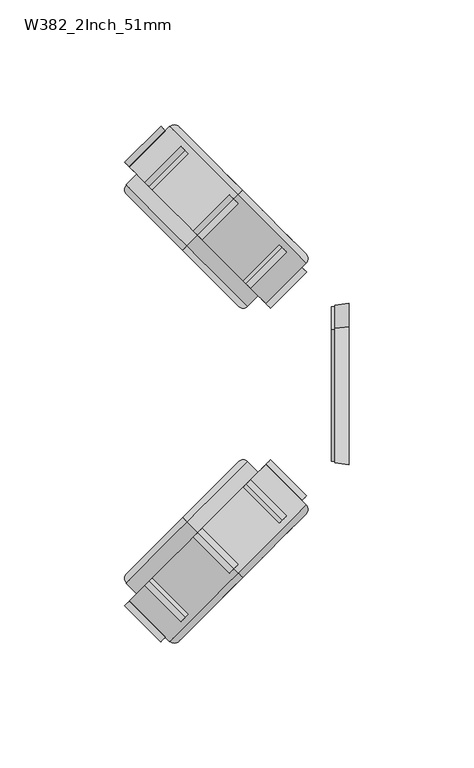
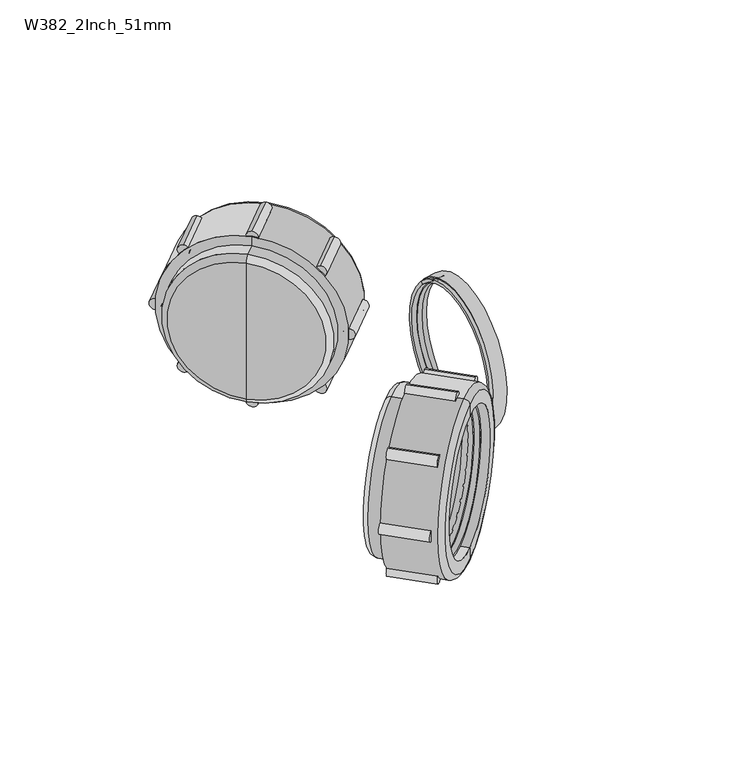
"""IFC4 building model written with IfcOpenShell, lengths in millimetres: pipe fitting geometry, Durapipe_PipeFitting_VulcatheneMechanical_DoubleWye_W38 : W382_2Inch_51mm."""

from ifc_helpers import new_model, si_unit, point, frame, frame_2d, origin, place, context, project, spatial, polyline, circle_curve, ellipse_curve, trimmed, segment, composite_curve, outline, extrude, source, transform, mapped, element, save
from ifc_brep_helpers import plane_surface, cylinder_surface, revolved_surface, advanced_brep


def w382_2inch_51mm_2cd0ae31(model_context):
    return source(origin(), model_context, "Body", "SolidModel", [
        advanced_brep(
        [(58.5911868, -90.8911868, -22.839549), (59.6911868, -89.7911868, -21.2839141), (89.7911868, -59.6911868, 21.2839141), (90.8911868, -58.5911868, 22.839549), (54.9813888, -86.5813888, -22.3445743), (86.5813888, -54.9813888, 22.3445743), (54.2914393, -85.2914393, -21.9203102), (55.2813888, -86.2813888, -21.9203102), (86.2813888, -55.2813888, 21.9203102), (85.2914393, -54.2914393, 21.9203102), (84.5914393, -54.9914393, 20.9303607), (54.9914393, -84.5914393, -20.9303607), (86.2177849, -56.6177849, 20.9303607), (56.6177849, -86.2177849, -20.9303607), (86.0177849, -56.8177849, 20.647518), (56.8177849, -86.0177849, -20.647518), (57.9234198, -88.0234198, -21.2839141), (58.3734198, -87.5734198, -20.647518), (87.5734198, -58.3734198, 20.647518), (88.0234198, -57.9234198, 21.2839141)],
        [
            (0, 1),
            (1, 2, circle_curve(frame((74.7411868, -74.7411868, 0.0), z_axis=(-0.7071067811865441, 0.7071067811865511, 0.0), x_axis=(0.5000000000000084, 0.49999999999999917, 0.7071067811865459)), 30.1)),
            (2, 3),
            (3, 0, circle_curve(frame((74.7411868, -74.7411868, 0.0), z_axis=(0.7071067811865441, -0.7071067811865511, 0.0), x_axis=(0.5000000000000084, 0.49999999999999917, 0.7071067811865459)), 32.3)),
            (2, 1, circle_curve(frame((74.7411868, -74.7411868, 0.0), z_axis=(-0.7071067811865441, 0.7071067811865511, 0.0), x_axis=(0.5000000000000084, 0.49999999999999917, 0.7071067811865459)), 30.1)),
            (0, 3, circle_curve(frame((74.7411868, -74.7411868, 0.0), z_axis=(0.7071067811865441, -0.7071067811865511, 0.0), x_axis=(0.5000000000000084, 0.49999999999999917, 0.7071067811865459)), 32.3)),
            (4, 0),
            (3, 5),
            (5, 4, circle_curve(frame((70.7813888, -70.7813888, 0.0), z_axis=(0.7071067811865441, -0.7071067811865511, 0.0), x_axis=(0.5000000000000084, 0.49999999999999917, 0.7071067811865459)), 31.6)),
            (4, 5, circle_curve(frame((70.7813888, -70.7813888, 0.0), z_axis=(0.7071067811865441, -0.7071067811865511, 0.0), x_axis=(0.5000000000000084, 0.49999999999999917, 0.7071067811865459)), 31.6)),
            (6, 7),
            (7, 8, circle_curve(frame((70.7813888, -70.7813888, 0.0), z_axis=(-0.7071067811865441, 0.7071067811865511, 0.0), x_axis=(0.5000000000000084, 0.49999999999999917, 0.7071067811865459)), 31.0)),
            (8, 9),
            (9, 6, circle_curve(frame((69.7914393, -69.7914393, 0.0), z_axis=(0.7071067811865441, -0.7071067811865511, 0.0), x_axis=(0.5000000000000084, 0.49999999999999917, 0.7071067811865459)), 31.0)),
            (8, 7, circle_curve(frame((70.7813888, -70.7813888, 0.0), z_axis=(-0.7071067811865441, 0.7071067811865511, 0.0), x_axis=(0.5000000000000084, 0.49999999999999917, 0.7071067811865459)), 31.0)),
            (6, 9, circle_curve(frame((69.7914393, -69.7914393, 0.0), z_axis=(0.7071067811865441, -0.7071067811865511, 0.0), x_axis=(0.5000000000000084, 0.49999999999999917, 0.7071067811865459)), 31.0)),
            (9, 10),
            (10, 11, circle_curve(frame((69.7914393, -69.7914393, 0.0), z_axis=(0.7071067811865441, -0.7071067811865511, 0.0), x_axis=(0.5000000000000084, 0.49999999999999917, 0.7071067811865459)), 29.6)),
            (11, 6),
            (11, 10, circle_curve(frame((69.7914393, -69.7914393, 0.0), z_axis=(0.7071067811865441, -0.7071067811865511, 0.0), x_axis=(0.5000000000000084, 0.49999999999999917, 0.7071067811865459)), 29.6)),
            (10, 12),
            (12, 13, circle_curve(frame((71.4177849, -71.4177849, 0.0), z_axis=(0.7071067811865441, -0.7071067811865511, 0.0), x_axis=(0.5000000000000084, 0.49999999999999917, 0.7071067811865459)), 29.6)),
            (13, 11),
            (13, 12, circle_curve(frame((71.4177849, -71.4177849, 0.0), z_axis=(0.7071067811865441, -0.7071067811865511, 0.0), x_axis=(0.5000000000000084, 0.49999999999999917, 0.7071067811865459)), 29.6)),
            (12, 14),
            (14, 15, circle_curve(frame((71.4177849, -71.4177849, 0.0), z_axis=(0.7071067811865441, -0.7071067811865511, 0.0), x_axis=(0.5000000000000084, 0.49999999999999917, 0.7071067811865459)), 29.2)),
            (15, 13),
            (15, 14, circle_curve(frame((71.4177849, -71.4177849, 0.0), z_axis=(0.7071067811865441, -0.7071067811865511, 0.0), x_axis=(0.5000000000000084, 0.49999999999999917, 0.7071067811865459)), 29.2)),
            (16, 17),
            (17, 18, circle_curve(frame((72.9734198, -72.9734198, 0.0), z_axis=(-0.7071067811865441, 0.7071067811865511, 0.0), x_axis=(0.5000000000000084, 0.49999999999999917, 0.7071067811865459)), 29.2)),
            (18, 19),
            (19, 16, circle_curve(frame((72.9734198, -72.9734198, 0.0), z_axis=(0.7071067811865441, -0.7071067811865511, 0.0), x_axis=(0.5000000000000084, 0.49999999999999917, 0.7071067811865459)), 30.1)),
            (18, 17, circle_curve(frame((72.9734198, -72.9734198, 0.0), z_axis=(-0.7071067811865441, 0.7071067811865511, 0.0), x_axis=(0.5000000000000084, 0.49999999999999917, 0.7071067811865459)), 29.2)),
            (16, 19, circle_curve(frame((72.9734198, -72.9734198, 0.0), z_axis=(0.7071067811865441, -0.7071067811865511, 0.0), x_axis=(0.5000000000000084, 0.49999999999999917, 0.7071067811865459)), 30.1)),
            (1, 16),
            (19, 2),
            (14, 18),
            (17, 15),
            (5, 8),
            (7, 4),
        ],
        [
            plane_surface(frame((74.7411868, -74.7411868, 0.0), z_axis=(0.7071067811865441, -0.707106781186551, 0.0), x_axis=(0.5000000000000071, 0.49999999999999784, 0.707106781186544))),
            revolved_surface(polyline([(90.8911868, -58.5911868, 22.839549), (86.5813888, -54.9813888, 22.3445743)]), (78.2767207, -78.2767207, 0.0), (-0.7071067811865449, 0.7071067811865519, 0.0)),
            cylinder_surface(frame((68.3272646, -68.3272646, 0.0), z_axis=(-0.7071067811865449, 0.7071067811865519, 0.0), x_axis=(0.5000000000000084, 0.49999999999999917, 0.7071067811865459)), 31.0),
            plane_surface(frame((69.7914393, -69.7914393, 0.0), z_axis=(-0.7071067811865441, 0.707106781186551, 0.0), x_axis=(0.5000000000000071, 0.49999999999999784, 0.707106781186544))),
            revolved_surface(polyline([(84.59143930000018, -54.991439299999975, 20.93036072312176), (86.21778490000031, -56.617784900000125, 20.93036072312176)]), (67.3215217, -67.3215217, 0.0), (-0.7071067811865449, 0.7071067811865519, 0.0)),
            plane_surface(frame((71.4177849, -71.4177849, 0.0), z_axis=(-0.7071067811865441, 0.707106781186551, 0.0), x_axis=(0.5000000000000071, 0.49999999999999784, 0.707106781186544))),
            plane_surface(frame((72.9734198, -72.9734198, 0.0), z_axis=(0.7071067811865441, -0.707106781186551, 0.0), x_axis=(0.5000000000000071, 0.49999999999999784, 0.707106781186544))),
            revolved_surface(polyline([(88.02341980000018, -57.923419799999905, 21.28391411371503), (89.79118680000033, -59.691186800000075, 21.28391411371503)]), (78.2767207, -78.2767207, 0.0), (-0.7071067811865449, 0.7071067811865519, 0.0)),
            revolved_surface(polyline([(86.01778490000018, -56.81778489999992, 20.64751801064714), (87.57341980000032, -58.37341980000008, 20.64751801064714)]), (75.8486521, -75.8486521, 0.0), (-0.7071067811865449, 0.7071067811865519, 0.0)),
            plane_surface(frame((70.7813888, -70.7813888, 0.0), z_axis=(-0.7071067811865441, 0.707106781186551, 0.0), x_axis=(0.5000000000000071, 0.49999999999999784, 0.707106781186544))),
        ],
        [
            (0, [[1, 2, 3, 4]]),
            (0, [[5, -1, 6, -3]]),
            (1, [[7, -4, 8, 9]]),
            (1, [[-8, -6, -7, 10]]),
            (2, [[11, 12, 13, 14]]),
            (2, [[15, -11, 16, -13]]),
            (3, [[17, 18, 19, -14]]),
            (3, [[-19, 20, -17, -16]]),
            (4, [[-18, 21, 22, 23]]),
            (4, [[24, -21, -20, -23]]),
            (5, [[25, 26, 27, -22]]),
            (5, [[-27, 28, -25, -24]]),
            (6, [[29, 30, 31, 32]]),
            (6, [[-31, 33, -29, 34]]),
            (7, [[35, -32, 36, -2]]),
            (7, [[-36, -34, -35, -5]]),
            (8, [[-26, 37, -30, 38]]),
            (8, [[-33, -37, -28, -38]]),
            (9, [[39, -12, 40, -9]]),
            (9, [[-40, -15, -39, -10]]),
        ],
    ),
        advanced_brep(
        [(59.538391, -59.538391, -38.8), (75.7311363, -75.7311363, -38.8), (75.7311363, -75.7311363, 38.8), (59.538391, -59.538391, 38.8), (59.538391, -59.538391, -34.5), (59.538391, -59.538391, 34.5), (77.4989032, -77.4989032, -36.3), (77.4989032, -77.4989032, -31.0), (77.4989032, -77.4989032, 31.0), (77.4989032, -77.4989032, 36.3), (74.7411868, -74.7411868, -33.0), (59.538391, -59.538391, -33.0), (59.538391, -59.538391, 33.0), (74.7411868, -74.7411868, 33.0), (74.7411868, -74.7411868, -31.0), (74.7411868, -74.7411868, 31.0), (55.2957503, -55.2957503, -34.5), (55.2957503, -55.2957503, 34.5), (53.5279833, -53.5279833, -32.0), (53.5279833, -53.5279833, 32.0), (53.5279833, -53.5279833, 0.0), (59.538391, -59.538391, 0.0)],
        [
            (0, 1),
            (1, 2, circle_curve(frame((75.7311363, -75.7311363, 0.0), z_axis=(-0.7071067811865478, 0.7071067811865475, 0.0), x_axis=(0.0, 0.0, 1.0000000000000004)), 38.8)),
            (2, 3),
            (3, 0, circle_curve(frame((59.538391, -59.538391, 0.0), z_axis=(0.7071067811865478, -0.7071067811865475, 0.0), x_axis=(0.0, 0.0, 1.0000000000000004)), 38.8)),
            (2, 1, circle_curve(frame((75.7311363, -75.7311363, 0.0), z_axis=(-0.7071067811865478, 0.7071067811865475, 0.0), x_axis=(0.0, 0.0, 1.0000000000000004)), 38.8)),
            (0, 3, circle_curve(frame((59.538391, -59.538391, 0.0), z_axis=(0.7071067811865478, -0.7071067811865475, 0.0), x_axis=(0.0, 0.0, 1.0000000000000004)), 38.8)),
            (4, 0),
            (3, 5),
            (5, 4, circle_curve(frame((59.538391, -59.538391, 0.0), z_axis=(0.7071067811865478, -0.7071067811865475, 0.0), x_axis=(0.0, 0.0, 1.0000000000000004)), 34.5)),
            (4, 5, circle_curve(frame((59.538391, -59.538391, 0.0), z_axis=(0.7071067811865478, -0.7071067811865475, 0.0), x_axis=(0.0, 0.0, 1.0000000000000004)), 34.5)),
            (6, 7),
            (7, 8, circle_curve(frame((77.4989032, -77.4989032, 0.0), z_axis=(-0.7071067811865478, 0.7071067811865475, 0.0), x_axis=(0.0, 0.0, 1.0000000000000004)), 31.0)),
            (8, 9),
            (9, 6, circle_curve(frame((77.4989032, -77.4989032, 0.0), z_axis=(0.7071067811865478, -0.7071067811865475, 0.0), x_axis=(0.0, 0.0, 1.0000000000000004)), 36.3)),
            (8, 7, circle_curve(frame((77.4989032, -77.4989032, 0.0), z_axis=(-0.7071067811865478, 0.7071067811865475, 0.0), x_axis=(0.0, 0.0, 1.0000000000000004)), 31.0)),
            (6, 9, circle_curve(frame((77.4989032, -77.4989032, 0.0), z_axis=(0.7071067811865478, -0.7071067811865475, 0.0), x_axis=(0.0, 0.0, 1.0000000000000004)), 36.3)),
            (1, 6, circle_curve(frame((75.7311363, -75.7311363, -36.3), z_axis=(-0.7071067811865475, -0.7071067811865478, 0.0), x_axis=(0.7071067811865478, -0.7071067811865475, 0.0)), 2.5)),
            (9, 2, circle_curve(frame((75.7311363, -75.7311363, 36.3), z_axis=(-0.7071067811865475, -0.7071067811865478, 0.0), x_axis=(0.7071067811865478, -0.7071067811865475, 0.0)), 2.5)),
            (10, 11),
            (11, 12, circle_curve(frame((59.538391, -59.538391, 0.0), z_axis=(-0.7071067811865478, 0.7071067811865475, 0.0), x_axis=(0.0, 0.0, 1.0000000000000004)), 33.0)),
            (12, 13),
            (13, 10, circle_curve(frame((74.7411868, -74.7411868, 0.0), z_axis=(0.7071067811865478, -0.7071067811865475, 0.0), x_axis=(0.0, 0.0, 1.0000000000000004)), 33.0)),
            (12, 11, circle_curve(frame((59.538391, -59.538391, 0.0), z_axis=(-0.7071067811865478, 0.7071067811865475, 0.0), x_axis=(0.0, 0.0, 1.0000000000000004)), 33.0)),
            (10, 13, circle_curve(frame((74.7411868, -74.7411868, 0.0), z_axis=(0.7071067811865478, -0.7071067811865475, 0.0), x_axis=(0.0, 0.0, 1.0000000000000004)), 33.0)),
            (14, 10),
            (13, 15),
            (15, 14, circle_curve(frame((74.7411868, -74.7411868, 0.0), z_axis=(0.7071067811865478, -0.7071067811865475, 0.0), x_axis=(0.0, 0.0, 1.0000000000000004)), 31.0)),
            (14, 15, circle_curve(frame((74.7411868, -74.7411868, 0.0), z_axis=(0.7071067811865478, -0.7071067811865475, 0.0), x_axis=(0.0, 0.0, 1.0000000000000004)), 31.0)),
            (7, 14),
            (15, 8),
            (16, 4),
            (5, 17),
            (17, 16, circle_curve(frame((55.2957503, -55.2957503, 0.0), z_axis=(0.7071067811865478, -0.7071067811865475, 0.0), x_axis=(0.0, 0.0, 1.0000000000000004)), 34.5)),
            (16, 17, circle_curve(frame((55.2957503, -55.2957503, 0.0), z_axis=(0.7071067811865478, -0.7071067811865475, 0.0), x_axis=(0.0, 0.0, 1.0000000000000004)), 34.5)),
            (18, 16, circle_curve(frame((55.2957503, -55.2957503, -32.0), z_axis=(-0.7071067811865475, -0.7071067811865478, 0.0), x_axis=(0.7071067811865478, -0.7071067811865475, 0.0)), 2.5)),
            (17, 19, circle_curve(frame((55.2957503, -55.2957503, 32.0), z_axis=(-0.7071067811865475, -0.7071067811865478, 0.0), x_axis=(0.7071067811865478, -0.7071067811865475, 0.0)), 2.5)),
            (19, 18, circle_curve(frame((53.5279833, -53.5279833, 0.0), z_axis=(0.7071067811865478, -0.7071067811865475, 0.0), x_axis=(0.0, 0.0, 1.0000000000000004)), 32.0)),
            (18, 19, circle_curve(frame((53.5279833, -53.5279833, 0.0), z_axis=(0.7071067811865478, -0.7071067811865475, 0.0), x_axis=(0.0, 0.0, 1.0000000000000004)), 32.0)),
            (20, 18),
            (19, 20),
            (11, 21),
            (21, 12),
        ],
        [
            cylinder_surface(frame((1181.1524531, -1181.1524531, 0.0), z_axis=(-0.7071067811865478, 0.7071067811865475, 0.0), x_axis=(0.0, 0.0, 1.0000000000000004)), 38.8),
            plane_surface(frame((59.538391, -59.538391, 0.0), z_axis=(-0.7071067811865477, 0.7071067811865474, 0.0), x_axis=(0.0, 0.0, 1.0))),
            plane_surface(frame((77.4989032, -77.4989032, 0.0), z_axis=(0.7071067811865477, -0.7071067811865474, 0.0), x_axis=(0.0, 0.0, 1.0))),
            revolved_surface(trimmed(ellipse_curve(frame((75.7311363, -75.7311363, 36.3), z_axis=(-0.7071067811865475, -0.7071067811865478, 0.0), x_axis=(0.7071067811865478, -0.7071067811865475, 0.0)), 2.5, 2.5), [point((77.4989032, -77.4989032, 36.3))], [point((75.7311363, -75.7311363, 38.8))], True, "CARTESIAN"), (1181.1524531, -1181.1524531, 0.0), (-0.7071067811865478, 0.7071067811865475, 0.0)),
            revolved_surface(polyline([(59.53839099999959, -59.53839100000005, 33.000000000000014), (74.74118679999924, -74.7411867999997, 33.000000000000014)]), (1181.1524531, -1181.1524531, 0.0), (-0.7071067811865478, 0.7071067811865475, 0.0)),
            plane_surface(frame((74.7411868, -74.7411868, 0.0), z_axis=(-0.7071067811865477, 0.7071067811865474, 0.0), x_axis=(0.0, 0.0, 1.0))),
            revolved_surface(polyline([(74.74118679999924, -74.7411867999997, 31.000000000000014), (77.4989031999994, -77.49890319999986, 31.000000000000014)]), (1181.1524531, -1181.1524531, 0.0), (-0.7071067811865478, 0.7071067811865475, 0.0)),
            cylinder_surface(frame((1181.1524531, -1181.1524531, 0.0), z_axis=(-0.7071067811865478, 0.7071067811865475, 0.0), x_axis=(0.0, 0.0, 1.0000000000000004)), 34.5),
            revolved_surface(trimmed(ellipse_curve(frame((55.2957503, -55.2957503, 32.0), z_axis=(-0.7071067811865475, -0.7071067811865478, 0.0), x_axis=(0.7071067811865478, -0.7071067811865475, 0.0)), 2.5, 2.5), [point((55.2957503, -55.2957503, 34.5))], [point((53.5279833, -53.5279833, 32.0))], True, "CARTESIAN"), (1181.1524531, -1181.1524531, 0.0), (-0.7071067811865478, 0.7071067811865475, 0.0)),
            plane_surface(frame((53.5279833, -53.5279833, 0.0), z_axis=(-0.7071067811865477, 0.7071067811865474, 0.0), x_axis=(0.0, 0.0, 1.0))),
            plane_surface(frame((59.538391, -59.538391, 0.0), z_axis=(0.7071067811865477, -0.7071067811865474, 0.0), x_axis=(0.0, 0.0, 1.0))),
        ],
        [
            (0, [[1, 2, 3, 4]]),
            (0, [[-3, 5, -1, 6]]),
            (1, [[7, -4, 8, 9]]),
            (1, [[-8, -6, -7, 10]]),
            (2, [[11, 12, 13, 14]]),
            (2, [[-13, 15, -11, 16]]),
            (3, [[17, -14, 18, -2]]),
            (3, [[-18, -16, -17, -5]]),
            (4, [[19, 20, 21, 22]]),
            (4, [[-21, 23, -19, 24]]),
            (5, [[25, -22, 26, 27]]),
            (5, [[-26, -24, -25, 28]]),
            (6, [[29, -27, 30, -12]]),
            (6, [[-30, -28, -29, -15]]),
            (7, [[31, -9, 32, 33]]),
            (7, [[-32, -10, -31, 34]]),
            (8, [[35, -33, 36, 37]]),
            (8, [[-36, -34, -35, 38]]),
            (9, [[39, -37, 40]]),
            (9, [[-40, -38, -39]]),
            (10, [[41, 42, -20]]),
            (10, [[-42, -41, -23]]),
        ],
    ),
        extrude(outline(composite_curve([segment(trimmed(circle_curve(frame_2d((0.0, 2.5)), 2.5), [point((0.0, 5.0))], [point((0.0, 0.0))], False, "CARTESIAN"), True, "CONTINUOUS"), segment(trimmed(circle_curve(frame_2d((0.0, 2.5)), 2.5), [point((0.0, 0.0))], [point((0.0, 5.0))], False, "CARTESIAN"), True, "CONTINUOUS")], self_intersect=False)), frame((101.3991124, -46.5276262, 2.5), z_axis=(-0.7071067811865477, 0.7071067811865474, 0.0), x_axis=(0.7071067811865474, 0.7071067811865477, 0.0)), (0.0, 0.0, 1.0), 20.4),
        extrude(outline(composite_curve([segment(trimmed(circle_curve(frame_2d((-11.3642569, -24.9357431)), 2.5), [point((-11.3642569, -22.4357431))], [point((-11.3642569, -27.4357431))], False, "CARTESIAN"), True, "CONTINUOUS"), segment(trimmed(circle_curve(frame_2d((-11.3642569, -24.9357431)), 2.5), [point((-11.3642569, -27.4357431))], [point((-11.3642569, -22.4357431))], False, "CARTESIAN"), True, "CONTINUOUS")], self_intersect=False)), frame((101.3991124, -46.5276262, 2.5), z_axis=(-0.7071067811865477, 0.7071067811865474, 0.0), x_axis=(0.7071067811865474, 0.7071067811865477, 0.0)), (0.0, 0.0, 1.0), 20.4),
        extrude(outline(composite_curve([segment(trimmed(circle_curve(frame_2d((-38.8, -36.3)), 2.5), [point((-38.8, -33.8))], [point((-38.8, -38.8))], False, "CARTESIAN"), True, "CONTINUOUS"), segment(trimmed(circle_curve(frame_2d((-38.8, -36.3)), 2.5), [point((-38.8, -38.8))], [point((-38.8, -33.8))], False, "CARTESIAN"), True, "CONTINUOUS")], self_intersect=False)), frame((101.3991124, -46.5276262, 2.5), z_axis=(-0.7071067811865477, 0.7071067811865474, 0.0), x_axis=(0.7071067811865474, 0.7071067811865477, 0.0)), (0.0, 0.0, 1.0), 20.4),
        extrude(outline(composite_curve([segment(trimmed(circle_curve(frame_2d((-66.2357431, -24.9357431)), 2.5), [point((-66.2357431, -22.4357431))], [point((-66.2357431, -27.4357431))], False, "CARTESIAN"), True, "CONTINUOUS"), segment(trimmed(circle_curve(frame_2d((-66.2357431, -24.9357431)), 2.5), [point((-66.2357431, -27.4357431))], [point((-66.2357431, -22.4357431))], False, "CARTESIAN"), True, "CONTINUOUS")], self_intersect=False)), frame((101.3991124, -46.5276262, 2.5), z_axis=(-0.7071067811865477, 0.7071067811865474, 0.0), x_axis=(0.7071067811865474, 0.7071067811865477, 0.0)), (0.0, 0.0, 1.0), 20.4),
        extrude(outline(composite_curve([segment(trimmed(circle_curve(frame_2d((-77.6, 2.5)), 2.5), [point((-77.6, 5.0))], [point((-77.6, 0.0))], False, "CARTESIAN"), True, "CONTINUOUS"), segment(trimmed(circle_curve(frame_2d((-77.6, 2.5)), 2.5), [point((-77.6, 0.0))], [point((-77.6, 5.0))], False, "CARTESIAN"), True, "CONTINUOUS")], self_intersect=False)), frame((101.3991124, -46.5276262, 2.5), z_axis=(-0.7071067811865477, 0.7071067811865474, 0.0), x_axis=(0.7071067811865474, 0.7071067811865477, 0.0)), (0.0, 0.0, 1.0), 20.4),
        extrude(outline(composite_curve([segment(trimmed(circle_curve(frame_2d((-66.2357431, 29.9357431)), 2.5), [point((-66.2357431, 32.4357431))], [point((-66.2357431, 27.4357431))], False, "CARTESIAN"), True, "CONTINUOUS"), segment(trimmed(circle_curve(frame_2d((-66.2357431, 29.9357431)), 2.5), [point((-66.2357431, 27.4357431))], [point((-66.2357431, 32.4357431))], False, "CARTESIAN"), True, "CONTINUOUS")], self_intersect=False)), frame((101.3991124, -46.5276262, 2.5), z_axis=(-0.7071067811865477, 0.7071067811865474, 0.0), x_axis=(0.7071067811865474, 0.7071067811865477, 0.0)), (0.0, 0.0, 1.0), 20.4),
        extrude(outline(composite_curve([segment(trimmed(circle_curve(frame_2d((-38.8, 41.3)), 2.5), [point((-38.8, 43.8))], [point((-38.8, 38.8))], False, "CARTESIAN"), True, "CONTINUOUS"), segment(trimmed(circle_curve(frame_2d((-38.8, 41.3)), 2.5), [point((-38.8, 38.8))], [point((-38.8, 43.8))], False, "CARTESIAN"), True, "CONTINUOUS")], self_intersect=False)), frame((101.3991124, -46.5276262, 2.5), z_axis=(-0.7071067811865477, 0.7071067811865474, 0.0), x_axis=(0.7071067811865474, 0.7071067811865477, 0.0)), (0.0, 0.0, 1.0), 20.4),
        extrude(outline(composite_curve([segment(trimmed(circle_curve(frame_2d((-11.3642569, 29.9357431)), 2.5), [point((-11.3642569, 32.4357431))], [point((-11.3642569, 27.4357431))], False, "CARTESIAN"), True, "CONTINUOUS"), segment(trimmed(circle_curve(frame_2d((-11.3642569, 29.9357431)), 2.5), [point((-11.3642569, 27.4357431))], [point((-11.3642569, 32.4357431))], False, "CARTESIAN"), True, "CONTINUOUS")], self_intersect=False)), frame((101.3991124, -46.5276262, 2.5), z_axis=(-0.7071067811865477, 0.7071067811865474, 0.0), x_axis=(0.7071067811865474, 0.7071067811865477, 0.0)), (0.0, 0.0, 1.0), 20.4),
        advanced_brep(
        [(90.8911868, 58.5911868, -22.839549), (89.7911868, 59.6911868, -21.2839141), (59.6911868, 89.7911868, 21.2839141), (58.5911868, 90.8911868, 22.839549), (86.5813888, 54.9813888, -22.3445743), (54.9813888, 86.5813888, 22.3445743), (85.2914393, 54.2914393, -21.9203102), (86.2813888, 55.2813888, -21.9203102), (55.2813888, 86.2813888, 21.9203102), (54.2914393, 85.2914393, 21.9203102), (54.9914393, 84.5914393, 20.9303607), (84.5914393, 54.9914393, -20.9303607), (56.6177849, 86.2177849, 20.9303607), (86.2177849, 56.6177849, -20.9303607), (56.8177849, 86.0177849, 20.647518), (86.0177849, 56.8177849, -20.647518), (88.0234198, 57.9234198, -21.2839141), (87.5734198, 58.3734198, -20.647518), (58.3734198, 87.5734198, 20.647518), (57.9234198, 88.0234198, 21.2839141)],
        [
            (0, 1),
            (1, 2, circle_curve(frame((74.7411868, 74.7411868, 0.0), z_axis=(-0.7071067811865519, -0.7071067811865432, 0.0), x_axis=(-0.4999999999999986, 0.500000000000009, 0.7071067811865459)), 30.1)),
            (2, 3),
            (3, 0, circle_curve(frame((74.7411868, 74.7411868, 0.0), z_axis=(0.7071067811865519, 0.7071067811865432, 0.0), x_axis=(-0.4999999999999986, 0.500000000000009, 0.7071067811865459)), 32.3)),
            (2, 1, circle_curve(frame((74.7411868, 74.7411868, 0.0), z_axis=(-0.7071067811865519, -0.7071067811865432, 0.0), x_axis=(-0.4999999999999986, 0.500000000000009, 0.7071067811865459)), 30.1)),
            (0, 3, circle_curve(frame((74.7411868, 74.7411868, 0.0), z_axis=(0.7071067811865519, 0.7071067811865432, 0.0), x_axis=(-0.4999999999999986, 0.500000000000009, 0.7071067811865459)), 32.3)),
            (4, 0),
            (3, 5),
            (5, 4, circle_curve(frame((70.7813888, 70.7813888, 0.0), z_axis=(0.7071067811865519, 0.7071067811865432, 0.0), x_axis=(-0.4999999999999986, 0.500000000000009, 0.7071067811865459)), 31.6)),
            (4, 5, circle_curve(frame((70.7813888, 70.7813888, 0.0), z_axis=(0.7071067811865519, 0.7071067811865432, 0.0), x_axis=(-0.4999999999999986, 0.500000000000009, 0.7071067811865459)), 31.6)),
            (6, 7),
            (7, 8, circle_curve(frame((70.7813888, 70.7813888, 0.0), z_axis=(-0.7071067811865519, -0.7071067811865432, 0.0), x_axis=(-0.4999999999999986, 0.500000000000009, 0.7071067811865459)), 31.0)),
            (8, 9),
            (9, 6, circle_curve(frame((69.7914393, 69.7914393, 0.0), z_axis=(0.7071067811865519, 0.7071067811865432, 0.0), x_axis=(-0.4999999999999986, 0.500000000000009, 0.7071067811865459)), 31.0)),
            (8, 7, circle_curve(frame((70.7813888, 70.7813888, 0.0), z_axis=(-0.7071067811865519, -0.7071067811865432, 0.0), x_axis=(-0.4999999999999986, 0.500000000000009, 0.7071067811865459)), 31.0)),
            (6, 9, circle_curve(frame((69.7914393, 69.7914393, 0.0), z_axis=(0.7071067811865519, 0.7071067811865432, 0.0), x_axis=(-0.4999999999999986, 0.500000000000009, 0.7071067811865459)), 31.0)),
            (9, 10),
            (10, 11, circle_curve(frame((69.7914393, 69.7914393, 0.0), z_axis=(0.7071067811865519, 0.7071067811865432, 0.0), x_axis=(-0.4999999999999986, 0.500000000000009, 0.7071067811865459)), 29.6)),
            (11, 6),
            (11, 10, circle_curve(frame((69.7914393, 69.7914393, 0.0), z_axis=(0.7071067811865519, 0.7071067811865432, 0.0), x_axis=(-0.4999999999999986, 0.500000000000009, 0.7071067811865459)), 29.6)),
            (10, 12),
            (12, 13, circle_curve(frame((71.4177849, 71.4177849, 0.0), z_axis=(0.7071067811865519, 0.7071067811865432, 0.0), x_axis=(-0.4999999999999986, 0.500000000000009, 0.7071067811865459)), 29.6)),
            (13, 11),
            (13, 12, circle_curve(frame((71.4177849, 71.4177849, 0.0), z_axis=(0.7071067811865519, 0.7071067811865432, 0.0), x_axis=(-0.4999999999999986, 0.500000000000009, 0.7071067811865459)), 29.6)),
            (12, 14),
            (14, 15, circle_curve(frame((71.4177849, 71.4177849, 0.0), z_axis=(0.7071067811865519, 0.7071067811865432, 0.0), x_axis=(-0.4999999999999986, 0.500000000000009, 0.7071067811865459)), 29.2)),
            (15, 13),
            (15, 14, circle_curve(frame((71.4177849, 71.4177849, 0.0), z_axis=(0.7071067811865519, 0.7071067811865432, 0.0), x_axis=(-0.4999999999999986, 0.500000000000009, 0.7071067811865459)), 29.2)),
            (16, 17),
            (17, 18, circle_curve(frame((72.9734198, 72.9734198, 0.0), z_axis=(-0.7071067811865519, -0.7071067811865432, 0.0), x_axis=(-0.4999999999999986, 0.500000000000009, 0.7071067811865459)), 29.2)),
            (18, 19),
            (19, 16, circle_curve(frame((72.9734198, 72.9734198, 0.0), z_axis=(0.7071067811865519, 0.7071067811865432, 0.0), x_axis=(-0.4999999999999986, 0.500000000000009, 0.7071067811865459)), 30.1)),
            (18, 17, circle_curve(frame((72.9734198, 72.9734198, 0.0), z_axis=(-0.7071067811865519, -0.7071067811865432, 0.0), x_axis=(-0.4999999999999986, 0.500000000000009, 0.7071067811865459)), 29.2)),
            (16, 19, circle_curve(frame((72.9734198, 72.9734198, 0.0), z_axis=(0.7071067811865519, 0.7071067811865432, 0.0), x_axis=(-0.4999999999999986, 0.500000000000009, 0.7071067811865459)), 30.1)),
            (1, 16),
            (19, 2),
            (14, 18),
            (17, 15),
            (5, 8),
            (7, 4),
        ],
        [
            plane_surface(frame((74.7411868, 74.7411868, 0.0), z_axis=(0.7071067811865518, 0.7071067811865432, 0.0), x_axis=(-0.4999999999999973, 0.5000000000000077, 0.707106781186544))),
            revolved_surface(polyline([(58.5911868, 90.8911868, 22.839549), (54.9813888, 86.5813888, 22.3445743)]), (78.2767207, 78.2767207, 0.0), (-0.7071067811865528, -0.7071067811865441, 0.0)),
            cylinder_surface(frame((68.3272646, 68.3272646, 0.0), z_axis=(-0.7071067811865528, -0.7071067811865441, 0.0), x_axis=(-0.4999999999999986, 0.500000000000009, 0.7071067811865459)), 31.0),
            plane_surface(frame((69.7914393, 69.7914393, 0.0), z_axis=(-0.7071067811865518, -0.7071067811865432, 0.0), x_axis=(-0.4999999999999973, 0.5000000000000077, 0.707106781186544))),
            revolved_surface(polyline([(54.991439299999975, 84.59143930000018, 20.93036072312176), (56.61778490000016, 86.21778490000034, 20.93036072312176)]), (67.3215217, 67.3215217, 0.0), (-0.7071067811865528, -0.7071067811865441, 0.0)),
            plane_surface(frame((71.4177849, 71.4177849, 0.0), z_axis=(-0.7071067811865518, -0.7071067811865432, 0.0), x_axis=(-0.4999999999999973, 0.5000000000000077, 0.707106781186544))),
            plane_surface(frame((72.9734198, 72.9734198, 0.0), z_axis=(0.7071067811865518, 0.7071067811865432, 0.0), x_axis=(-0.4999999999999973, 0.5000000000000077, 0.707106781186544))),
            revolved_surface(polyline([(57.923419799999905, 88.0234198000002, 21.28391411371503), (59.69118680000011, 89.79118680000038, 21.28391411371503)]), (78.2767207, 78.2767207, 0.0), (-0.7071067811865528, -0.7071067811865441, 0.0)),
            revolved_surface(polyline([(56.81778489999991, 86.0177849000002, 20.64751801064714), (58.37341980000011, 87.57341980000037, 20.64751801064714)]), (75.8486521, 75.8486521, 0.0), (-0.7071067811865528, -0.7071067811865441, 0.0)),
            plane_surface(frame((70.7813888, 70.7813888, 0.0), z_axis=(-0.7071067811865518, -0.7071067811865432, 0.0), x_axis=(-0.4999999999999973, 0.5000000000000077, 0.707106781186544))),
        ],
        [
            (0, [[1, 2, 3, 4]]),
            (0, [[5, -1, 6, -3]]),
            (1, [[7, -4, 8, 9]]),
            (1, [[-8, -6, -7, 10]]),
            (2, [[11, 12, 13, 14]]),
            (2, [[15, -11, 16, -13]]),
            (3, [[17, 18, 19, -14]]),
            (3, [[-19, 20, -17, -16]]),
            (4, [[-18, 21, 22, 23]]),
            (4, [[24, -21, -20, -23]]),
            (5, [[25, 26, 27, -22]]),
            (5, [[-27, 28, -25, -24]]),
            (6, [[29, 30, 31, 32]]),
            (6, [[-31, 33, -29, 34]]),
            (7, [[35, -32, 36, -2]]),
            (7, [[-36, -34, -35, -5]]),
            (8, [[-26, 37, -30, 38]]),
            (8, [[-33, -37, -28, -38]]),
            (9, [[39, -12, 40, -9]]),
            (9, [[-40, -15, -39, -10]]),
        ],
    ),
        advanced_brep(
        [(59.538391, 59.538391, -38.8), (75.7311363, 75.7311363, -38.8), (75.7311363, 75.7311363, 38.8), (59.538391, 59.538391, 38.8), (59.538391, 59.538391, -34.5), (59.538391, 59.538391, 34.5), (77.4989032, 77.4989032, -36.3), (77.4989032, 77.4989032, -31.0), (77.4989032, 77.4989032, 31.0), (77.4989032, 77.4989032, 36.3), (74.7411868, 74.7411868, -33.0), (59.538391, 59.538391, -33.0), (59.538391, 59.538391, 33.0), (74.7411868, 74.7411868, 33.0), (74.7411868, 74.7411868, -31.0), (74.7411868, 74.7411868, 31.0), (55.2957503, 55.2957503, -34.5), (55.2957503, 55.2957503, 34.5), (53.5279833, 53.5279833, -32.0), (53.5279833, 53.5279833, 32.0), (53.5279833, 53.5279833, 0.0), (59.538391, 59.538391, 0.0)],
        [
            (0, 1),
            (1, 2, circle_curve(frame((75.7311363, 75.7311363, 0.0), z_axis=(-0.7071067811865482, -0.7071067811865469, 0.0), x_axis=(0.0, 0.0, 1.0000000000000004)), 38.8)),
            (2, 3),
            (3, 0, circle_curve(frame((59.538391, 59.538391, 0.0), z_axis=(0.7071067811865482, 0.7071067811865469, 0.0), x_axis=(0.0, 0.0, 1.0000000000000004)), 38.8)),
            (2, 1, circle_curve(frame((75.7311363, 75.7311363, 0.0), z_axis=(-0.7071067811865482, -0.7071067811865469, 0.0), x_axis=(0.0, 0.0, 1.0000000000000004)), 38.8)),
            (0, 3, circle_curve(frame((59.538391, 59.538391, 0.0), z_axis=(0.7071067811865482, 0.7071067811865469, 0.0), x_axis=(0.0, 0.0, 1.0000000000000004)), 38.8)),
            (4, 0),
            (3, 5),
            (5, 4, circle_curve(frame((59.538391, 59.538391, 0.0), z_axis=(0.7071067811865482, 0.7071067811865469, 0.0), x_axis=(0.0, 0.0, 1.0000000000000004)), 34.5)),
            (4, 5, circle_curve(frame((59.538391, 59.538391, 0.0), z_axis=(0.7071067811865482, 0.7071067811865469, 0.0), x_axis=(0.0, 0.0, 1.0000000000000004)), 34.5)),
            (6, 7),
            (7, 8, circle_curve(frame((77.4989032, 77.4989032, 0.0), z_axis=(-0.7071067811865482, -0.7071067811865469, 0.0), x_axis=(0.0, 0.0, 1.0000000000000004)), 31.0)),
            (8, 9),
            (9, 6, circle_curve(frame((77.4989032, 77.4989032, 0.0), z_axis=(0.7071067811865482, 0.7071067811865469, 0.0), x_axis=(0.0, 0.0, 1.0000000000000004)), 36.3)),
            (8, 7, circle_curve(frame((77.4989032, 77.4989032, 0.0), z_axis=(-0.7071067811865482, -0.7071067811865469, 0.0), x_axis=(0.0, 0.0, 1.0000000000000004)), 31.0)),
            (6, 9, circle_curve(frame((77.4989032, 77.4989032, 0.0), z_axis=(0.7071067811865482, 0.7071067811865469, 0.0), x_axis=(0.0, 0.0, 1.0000000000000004)), 36.3)),
            (1, 6, circle_curve(frame((75.7311363, 75.7311363, -36.3), z_axis=(0.707106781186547, -0.7071067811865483, 0.0), x_axis=(0.7071067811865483, 0.707106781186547, 0.0)), 2.5)),
            (9, 2, circle_curve(frame((75.7311363, 75.7311363, 36.3), z_axis=(0.707106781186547, -0.7071067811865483, 0.0), x_axis=(0.7071067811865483, 0.707106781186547, 0.0)), 2.5)),
            (10, 11),
            (11, 12, circle_curve(frame((59.538391, 59.538391, 0.0), z_axis=(-0.7071067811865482, -0.7071067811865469, 0.0), x_axis=(0.0, 0.0, 1.0000000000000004)), 33.0)),
            (12, 13),
            (13, 10, circle_curve(frame((74.7411868, 74.7411868, 0.0), z_axis=(0.7071067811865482, 0.7071067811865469, 0.0), x_axis=(0.0, 0.0, 1.0000000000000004)), 33.0)),
            (12, 11, circle_curve(frame((59.538391, 59.538391, 0.0), z_axis=(-0.7071067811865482, -0.7071067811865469, 0.0), x_axis=(0.0, 0.0, 1.0000000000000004)), 33.0)),
            (10, 13, circle_curve(frame((74.7411868, 74.7411868, 0.0), z_axis=(0.7071067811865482, 0.7071067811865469, 0.0), x_axis=(0.0, 0.0, 1.0000000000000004)), 33.0)),
            (14, 10),
            (13, 15),
            (15, 14, circle_curve(frame((74.7411868, 74.7411868, 0.0), z_axis=(0.7071067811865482, 0.7071067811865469, 0.0), x_axis=(0.0, 0.0, 1.0000000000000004)), 31.0)),
            (14, 15, circle_curve(frame((74.7411868, 74.7411868, 0.0), z_axis=(0.7071067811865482, 0.7071067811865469, 0.0), x_axis=(0.0, 0.0, 1.0000000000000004)), 31.0)),
            (7, 14),
            (15, 8),
            (16, 4),
            (5, 17),
            (17, 16, circle_curve(frame((55.2957503, 55.2957503, 0.0), z_axis=(0.7071067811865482, 0.7071067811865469, 0.0), x_axis=(0.0, 0.0, 1.0000000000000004)), 34.5)),
            (16, 17, circle_curve(frame((55.2957503, 55.2957503, 0.0), z_axis=(0.7071067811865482, 0.7071067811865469, 0.0), x_axis=(0.0, 0.0, 1.0000000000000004)), 34.5)),
            (18, 16, circle_curve(frame((55.2957503, 55.2957503, -32.0), z_axis=(0.707106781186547, -0.7071067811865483, 0.0), x_axis=(0.7071067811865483, 0.707106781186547, 0.0)), 2.5)),
            (17, 19, circle_curve(frame((55.2957503, 55.2957503, 32.0), z_axis=(0.707106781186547, -0.7071067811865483, 0.0), x_axis=(0.7071067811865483, 0.707106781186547, 0.0)), 2.5)),
            (19, 18, circle_curve(frame((53.5279833, 53.5279833, 0.0), z_axis=(0.7071067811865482, 0.7071067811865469, 0.0), x_axis=(0.0, 0.0, 1.0000000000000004)), 32.0)),
            (18, 19, circle_curve(frame((53.5279833, 53.5279833, 0.0), z_axis=(0.7071067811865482, 0.7071067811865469, 0.0), x_axis=(0.0, 0.0, 1.0000000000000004)), 32.0)),
            (20, 18),
            (19, 20),
            (11, 21),
            (21, 12),
        ],
        [
            cylinder_surface(frame((1181.1524531, 1181.1524531, 0.0), z_axis=(-0.7071067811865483, -0.707106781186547, 0.0), x_axis=(0.0, 0.0, 1.0000000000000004)), 38.8),
            plane_surface(frame((59.538391, 59.538391, 0.0), z_axis=(-0.7071067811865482, -0.7071067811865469, 0.0), x_axis=(0.0, 0.0, 1.0))),
            plane_surface(frame((77.4989032, 77.4989032, 0.0), z_axis=(0.7071067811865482, 0.7071067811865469, 0.0), x_axis=(0.0, 0.0, 1.0))),
            revolved_surface(trimmed(ellipse_curve(frame((75.7311363, 75.7311363, 36.3), z_axis=(0.707106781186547, -0.7071067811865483, 0.0), x_axis=(0.7071067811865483, 0.707106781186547, 0.0)), 2.5, 2.5), [point((77.4989032, 77.4989032, 36.3))], [point((75.7311363, 75.7311363, 38.8))], True, "CARTESIAN"), (1181.1524531, 1181.1524531, 0.0), (-0.7071067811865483, -0.707106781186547, 0.0)),
            revolved_surface(polyline([(59.538390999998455, 59.5383910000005, 33.000000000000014), (74.74118679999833, 74.74118680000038, 33.000000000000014)]), (1181.1524531, 1181.1524531, 0.0), (-0.7071067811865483, -0.707106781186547, 0.0)),
            plane_surface(frame((74.7411868, 74.7411868, 0.0), z_axis=(-0.7071067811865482, -0.7071067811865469, 0.0), x_axis=(0.0, 0.0, 1.0))),
            revolved_surface(polyline([(74.74118679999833, 74.74118680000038, 31.000000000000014), (77.4989031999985, 77.49890320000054, 31.000000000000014)]), (1181.1524531, 1181.1524531, 0.0), (-0.7071067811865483, -0.707106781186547, 0.0)),
            cylinder_surface(frame((1181.1524531, 1181.1524531, 0.0), z_axis=(-0.7071067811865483, -0.707106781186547, 0.0), x_axis=(0.0, 0.0, 1.0000000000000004)), 34.5),
            revolved_surface(trimmed(ellipse_curve(frame((55.2957503, 55.2957503, 32.0), z_axis=(0.707106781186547, -0.7071067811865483, 0.0), x_axis=(0.7071067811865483, 0.707106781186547, 0.0)), 2.5, 2.5), [point((55.2957503, 55.2957503, 34.5))], [point((53.5279833, 53.5279833, 32.0))], True, "CARTESIAN"), (1181.1524531, 1181.1524531, 0.0), (-0.7071067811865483, -0.707106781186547, 0.0)),
            plane_surface(frame((53.5279833, 53.5279833, 0.0), z_axis=(-0.7071067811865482, -0.7071067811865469, 0.0), x_axis=(0.0, 0.0, 1.0))),
            plane_surface(frame((59.538391, 59.538391, 0.0), z_axis=(0.7071067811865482, 0.7071067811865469, 0.0), x_axis=(0.0, 0.0, 1.0))),
        ],
        [
            (0, [[1, 2, 3, 4]]),
            (0, [[-3, 5, -1, 6]]),
            (1, [[7, -4, 8, 9]]),
            (1, [[-8, -6, -7, 10]]),
            (2, [[11, 12, 13, 14]]),
            (2, [[-13, 15, -11, 16]]),
            (3, [[17, -14, 18, -2]]),
            (3, [[-18, -16, -17, -5]]),
            (4, [[19, 20, 21, 22]]),
            (4, [[-21, 23, -19, 24]]),
            (5, [[25, -22, 26, 27]]),
            (5, [[-26, -24, -25, 28]]),
            (6, [[29, -27, 30, -12]]),
            (6, [[-30, -28, -29, -15]]),
            (7, [[31, -9, 32, 33]]),
            (7, [[-32, -10, -31, 34]]),
            (8, [[35, -33, 36, 37]]),
            (8, [[-36, -34, -35, 38]]),
            (9, [[39, -37, 40]]),
            (9, [[-40, -38, -39]]),
            (10, [[41, 42, -20]]),
            (10, [[-42, -41, -23]]),
        ],
    ),
        extrude(outline(composite_curve([segment(trimmed(circle_curve(frame_2d((0.0, 2.5)), 2.5), [point((0.0, 5.0))], [point((0.0, 0.0))], False, "CARTESIAN"), True, "CONTINUOUS"), segment(trimmed(circle_curve(frame_2d((0.0, 2.5)), 2.5), [point((0.0, 0.0))], [point((0.0, 5.0))], False, "CARTESIAN"), True, "CONTINUOUS")], self_intersect=False)), frame((32.1026479, 86.9741341, 2.5), z_axis=(0.7071067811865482, 0.7071067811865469, 0.0), x_axis=(0.7071067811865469, -0.7071067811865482, 0.0)), (0.0, 0.0, 1.0), 20.4),
        extrude(outline(composite_curve([segment(trimmed(circle_curve(frame_2d((11.3642569, -24.9357431)), 2.5), [point((11.3642569, -22.4357431))], [point((11.3642569, -27.4357431))], False, "CARTESIAN"), True, "CONTINUOUS"), segment(trimmed(circle_curve(frame_2d((11.3642569, -24.9357431)), 2.5), [point((11.3642569, -27.4357431))], [point((11.3642569, -22.4357431))], False, "CARTESIAN"), True, "CONTINUOUS")], self_intersect=False)), frame((32.1026479, 86.9741341, 2.5), z_axis=(0.7071067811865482, 0.7071067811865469, 0.0), x_axis=(0.7071067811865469, -0.7071067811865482, 0.0)), (0.0, 0.0, 1.0), 20.4),
        extrude(outline(composite_curve([segment(trimmed(circle_curve(frame_2d((38.8, -36.3)), 2.5), [point((38.8, -33.8))], [point((38.8, -38.8))], False, "CARTESIAN"), True, "CONTINUOUS"), segment(trimmed(circle_curve(frame_2d((38.8, -36.3)), 2.5), [point((38.8, -38.8))], [point((38.8, -33.8))], False, "CARTESIAN"), True, "CONTINUOUS")], self_intersect=False)), frame((32.1026479, 86.9741341, 2.5), z_axis=(0.7071067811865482, 0.7071067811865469, 0.0), x_axis=(0.7071067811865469, -0.7071067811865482, 0.0)), (0.0, 0.0, 1.0), 20.4),
        extrude(outline(composite_curve([segment(trimmed(circle_curve(frame_2d((66.2357431, -24.9357431)), 2.5), [point((66.2357431, -22.4357431))], [point((66.2357431, -27.4357431))], False, "CARTESIAN"), True, "CONTINUOUS"), segment(trimmed(circle_curve(frame_2d((66.2357431, -24.9357431)), 2.5), [point((66.2357431, -27.4357431))], [point((66.2357431, -22.4357431))], False, "CARTESIAN"), True, "CONTINUOUS")], self_intersect=False)), frame((32.1026479, 86.9741341, 2.5), z_axis=(0.7071067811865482, 0.7071067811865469, 0.0), x_axis=(0.7071067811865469, -0.7071067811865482, 0.0)), (0.0, 0.0, 1.0), 20.4),
        extrude(outline(composite_curve([segment(trimmed(circle_curve(frame_2d((77.6, 2.5)), 2.5), [point((77.6, 5.0))], [point((77.6, 0.0))], False, "CARTESIAN"), True, "CONTINUOUS"), segment(trimmed(circle_curve(frame_2d((77.6, 2.5)), 2.5), [point((77.6, 0.0))], [point((77.6, 5.0))], False, "CARTESIAN"), True, "CONTINUOUS")], self_intersect=False)), frame((32.1026479, 86.9741341, 2.5), z_axis=(0.7071067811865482, 0.7071067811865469, 0.0), x_axis=(0.7071067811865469, -0.7071067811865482, 0.0)), (0.0, 0.0, 1.0), 20.4),
        extrude(outline(composite_curve([segment(trimmed(circle_curve(frame_2d((66.2357431, 29.9357431)), 2.5), [point((66.2357431, 32.4357431))], [point((66.2357431, 27.4357431))], False, "CARTESIAN"), True, "CONTINUOUS"), segment(trimmed(circle_curve(frame_2d((66.2357431, 29.9357431)), 2.5), [point((66.2357431, 27.4357431))], [point((66.2357431, 32.4357431))], False, "CARTESIAN"), True, "CONTINUOUS")], self_intersect=False)), frame((32.1026479, 86.9741341, 2.5), z_axis=(0.7071067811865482, 0.7071067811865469, 0.0), x_axis=(0.7071067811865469, -0.7071067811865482, 0.0)), (0.0, 0.0, 1.0), 20.4),
        extrude(outline(composite_curve([segment(trimmed(circle_curve(frame_2d((38.8, 41.3)), 2.5), [point((38.8, 43.8))], [point((38.8, 38.8))], False, "CARTESIAN"), True, "CONTINUOUS"), segment(trimmed(circle_curve(frame_2d((38.8, 41.3)), 2.5), [point((38.8, 38.8))], [point((38.8, 43.8))], False, "CARTESIAN"), True, "CONTINUOUS")], self_intersect=False)), frame((32.1026479, 86.9741341, 2.5), z_axis=(0.7071067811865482, 0.7071067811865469, 0.0), x_axis=(0.7071067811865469, -0.7071067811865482, 0.0)), (0.0, 0.0, 1.0), 20.4),
        extrude(outline(composite_curve([segment(trimmed(circle_curve(frame_2d((11.3642569, 29.9357431)), 2.5), [point((11.3642569, 32.4357431))], [point((11.3642569, 27.4357431))], False, "CARTESIAN"), True, "CONTINUOUS"), segment(trimmed(circle_curve(frame_2d((11.3642569, 29.9357431)), 2.5), [point((11.3642569, 27.4357431))], [point((11.3642569, 32.4357431))], False, "CARTESIAN"), True, "CONTINUOUS")], self_intersect=False)), frame((32.1026479, 86.9741341, 2.5), z_axis=(0.7071067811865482, 0.7071067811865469, 0.0), x_axis=(0.7071067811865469, -0.7071067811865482, 0.0)), (0.0, 0.0, 1.0), 20.4),
        advanced_brep(
        [(120.2, 22.839549, 22.839549), (120.2, 21.2839141, 21.2839141), (120.2, -21.2839141, -21.2839141), (120.2, -22.839549, -22.839549), (114.6, 22.3445743, 22.3445743), (114.6, -22.3445743, -22.3445743), (113.2, 21.9203102, 21.9203102), (114.6, 21.9203102, 21.9203102), (114.6, -21.9203102, -21.9203102), (113.2, -21.9203102, -21.9203102), (113.2, -20.9303607, -20.9303607), (113.2, 20.9303607, 20.9303607), (115.5, -20.9303607, -20.9303607), (115.5, 20.9303607, 20.9303607), (115.5, -20.647518, -20.647518), (115.5, 20.647518, 20.647518), (117.7, 21.2839141, 21.2839141), (117.7, 20.647518, 20.647518), (117.7, -20.647518, -20.647518), (117.7, -21.2839141, -21.2839141)],
        [
            (0, 1),
            (1, 2, circle_curve(frame((120.2, 0.0, 0.0), z_axis=(-1.0, 0.0, 0.0), x_axis=(0.0, -0.7071067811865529, -0.7071067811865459)), 30.1)),
            (2, 3),
            (3, 0, circle_curve(frame((120.2, 0.0, 0.0), z_axis=(1.0, 0.0, 0.0), x_axis=(0.0, -0.7071067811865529, -0.7071067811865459)), 32.3)),
            (2, 1, circle_curve(frame((120.2, 0.0, 0.0), z_axis=(-1.0, 0.0, 0.0), x_axis=(0.0, -0.7071067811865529, -0.7071067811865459)), 30.1)),
            (0, 3, circle_curve(frame((120.2, 0.0, 0.0), z_axis=(1.0, 0.0, 0.0), x_axis=(0.0, -0.7071067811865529, -0.7071067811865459)), 32.3)),
            (4, 0),
            (3, 5),
            (5, 4, circle_curve(frame((114.6, 0.0, 0.0), z_axis=(1.0, 0.0, 0.0), x_axis=(0.0, -0.7071067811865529, -0.7071067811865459)), 31.6)),
            (4, 5, circle_curve(frame((114.6, 0.0, 0.0), z_axis=(1.0, 0.0, 0.0), x_axis=(0.0, -0.7071067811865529, -0.7071067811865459)), 31.6)),
            (6, 7),
            (7, 8, circle_curve(frame((114.6, 0.0, 0.0), z_axis=(-1.0, 0.0, 0.0), x_axis=(0.0, -0.7071067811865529, -0.7071067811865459)), 31.0)),
            (8, 9),
            (9, 6, circle_curve(frame((113.2, 0.0, 0.0), z_axis=(1.0, 0.0, 0.0), x_axis=(0.0, -0.7071067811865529, -0.7071067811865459)), 31.0)),
            (8, 7, circle_curve(frame((114.6, 0.0, 0.0), z_axis=(-1.0, 0.0, 0.0), x_axis=(0.0, -0.7071067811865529, -0.7071067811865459)), 31.0)),
            (6, 9, circle_curve(frame((113.2, 0.0, 0.0), z_axis=(1.0, 0.0, 0.0), x_axis=(0.0, -0.7071067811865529, -0.7071067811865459)), 31.0)),
            (9, 10),
            (10, 11, circle_curve(frame((113.2, 0.0, 0.0), z_axis=(1.0, 0.0, 0.0), x_axis=(0.0, -0.7071067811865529, -0.7071067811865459)), 29.6)),
            (11, 6),
            (11, 10, circle_curve(frame((113.2, 0.0, 0.0), z_axis=(1.0, 0.0, 0.0), x_axis=(0.0, -0.7071067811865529, -0.7071067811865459)), 29.6)),
            (10, 12),
            (12, 13, circle_curve(frame((115.5, 0.0, 0.0), z_axis=(1.0, 0.0, 0.0), x_axis=(0.0, -0.7071067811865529, -0.7071067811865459)), 29.6)),
            (13, 11),
            (13, 12, circle_curve(frame((115.5, 0.0, 0.0), z_axis=(1.0, 0.0, 0.0), x_axis=(0.0, -0.7071067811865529, -0.7071067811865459)), 29.6)),
            (12, 14),
            (14, 15, circle_curve(frame((115.5, 0.0, 0.0), z_axis=(1.0, 0.0, 0.0), x_axis=(0.0, -0.7071067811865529, -0.7071067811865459)), 29.2)),
            (15, 13),
            (15, 14, circle_curve(frame((115.5, 0.0, 0.0), z_axis=(1.0, 0.0, 0.0), x_axis=(0.0, -0.7071067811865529, -0.7071067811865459)), 29.2)),
            (16, 17),
            (17, 18, circle_curve(frame((117.7, 0.0, 0.0), z_axis=(-1.0, 0.0, 0.0), x_axis=(0.0, -0.7071067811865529, -0.7071067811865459)), 29.2)),
            (18, 19),
            (19, 16, circle_curve(frame((117.7, 0.0, 0.0), z_axis=(1.0, 0.0, 0.0), x_axis=(0.0, -0.7071067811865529, -0.7071067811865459)), 30.1)),
            (18, 17, circle_curve(frame((117.7, 0.0, 0.0), z_axis=(-1.0, 0.0, 0.0), x_axis=(0.0, -0.7071067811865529, -0.7071067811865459)), 29.2)),
            (16, 19, circle_curve(frame((117.7, 0.0, 0.0), z_axis=(1.0, 0.0, 0.0), x_axis=(0.0, -0.7071067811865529, -0.7071067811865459)), 30.1)),
            (1, 16),
            (19, 2),
            (14, 18),
            (17, 15),
            (5, 8),
            (7, 4),
        ],
        [
            plane_surface(frame((120.2, 0.0, 0.0), z_axis=(1.0, 0.0, 0.0), x_axis=(0.0, -0.707106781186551, -0.707106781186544))),
            revolved_surface(polyline([(120.2, -22.839549, -22.839549), (114.6, -22.3445743, -22.3445743)]), (125.2, 0.0, 0.0), (-1.0000000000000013, 0.0, 0.0)),
            cylinder_surface(frame((111.1293443, 0.0, 0.0), z_axis=(-1.0000000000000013, 0.0, 0.0), x_axis=(0.0, -0.7071067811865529, -0.7071067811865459)), 31.0),
            plane_surface(frame((113.2, 0.0, 0.0), z_axis=(-1.0, 0.0, 0.0), x_axis=(0.0, -0.707106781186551, -0.707106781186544))),
            revolved_surface(polyline([(113.20000000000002, -20.930360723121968, -20.93036072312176), (115.50000000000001, -20.930360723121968, -20.93036072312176)]), (109.707009, 0.0, 0.0), (-1.0000000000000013, 0.0, 0.0)),
            plane_surface(frame((115.5, 0.0, 0.0), z_axis=(-1.0, 0.0, 0.0), x_axis=(0.0, -0.707106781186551, -0.707106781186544))),
            plane_surface(frame((117.7, 0.0, 0.0), z_axis=(1.0, 0.0, 0.0), x_axis=(0.0, -0.707106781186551, -0.707106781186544))),
            revolved_surface(polyline([(117.69999999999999, -21.283914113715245, -21.28391411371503), (120.19999999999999, -21.283914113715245, -21.28391411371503)]), (125.2, 0.0, 0.0), (-1.0000000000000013, 0.0, 0.0)),
            revolved_surface(polyline([(115.49999999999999, -20.647518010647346, -20.64751801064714), (117.69999999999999, -20.647518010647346, -20.64751801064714)]), (121.7661924, 0.0, 0.0), (-1.0000000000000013, 0.0, 0.0)),
            plane_surface(frame((114.6, 0.0, 0.0), z_axis=(-1.0, 0.0, 0.0), x_axis=(0.0, -0.707106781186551, -0.707106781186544))),
        ],
        [
            (0, [[1, 2, 3, 4]]),
            (0, [[5, -1, 6, -3]]),
            (1, [[7, -4, 8, 9]]),
            (1, [[-8, -6, -7, 10]]),
            (2, [[11, 12, 13, 14]]),
            (2, [[15, -11, 16, -13]]),
            (3, [[17, 18, 19, -14]]),
            (3, [[-19, 20, -17, -16]]),
            (4, [[-18, 21, 22, 23]]),
            (4, [[24, -21, -20, -23]]),
            (5, [[25, 26, 27, -22]]),
            (5, [[-27, 28, -25, -24]]),
            (6, [[29, 30, 31, 32]]),
            (6, [[-31, 33, -29, 34]]),
            (7, [[35, -32, 36, -2]]),
            (7, [[-36, -34, -35, -5]]),
            (8, [[-26, 37, -30, 38]]),
            (8, [[-33, -37, -28, -38]]),
            (9, [[39, -12, 40, -9]]),
            (9, [[-40, -15, -39, -10]]),
        ],
    ),
    ])


if __name__ == "__main__":
    model = new_model("IFC4")
    model_context = context("Model", 3, world=origin())
    ifc_project = project(units=[si_unit("LENGTHUNIT", "METRE", prefix="MILLI")], contexts=[model_context])
    site = spatial("IfcSite", under=ifc_project)
    building = spatial("IfcBuilding", under=site)
    placement = place(None, origin())
    w382_2inch_51mm_shape = w382_2inch_51mm_2cd0ae31(model_context)
    element("IfcPipeFitting", 1, ObjectType="Durapipe_PipeFitting_VulcatheneMechanical_DoubleWye_W38 : W382_2Inch_51mm", at=placement, inside=building, context=model_context, shape_type="MappedRepresentation", body=[
        mapped(w382_2inch_51mm_shape, transform((0.0, 0.0, 0.0), x_axis=(1.0, 0.0, 0.0), y_axis=(0.0, 1.0, 0.0), z_axis=(0.0, 0.0, 1.0))),
    ])
    save(model, "model.ifc")
